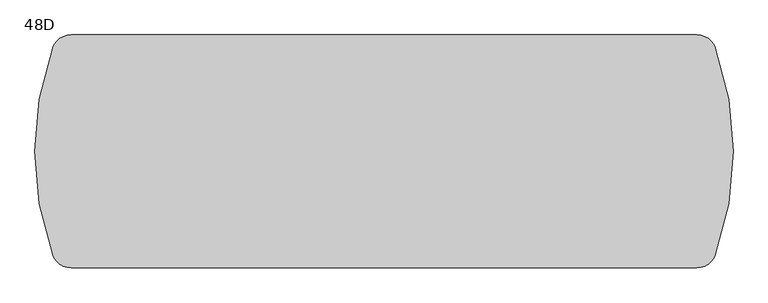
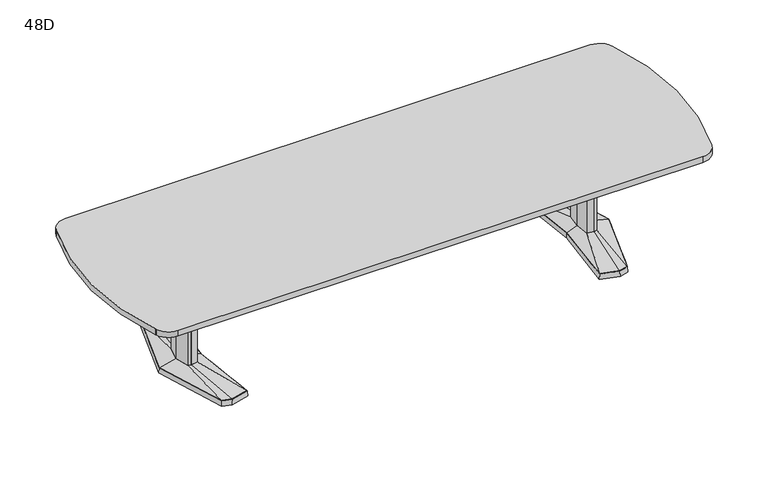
"""IFC4 building model written with IfcOpenShell, lengths in millimetres: furniture geometry, Coalesse_AM_Table_Conference_ETable2_SoftRadiused_12ft_AluminiumBase : 48D."""

from ifc_helpers import new_model, si_unit, point, frame, frame_2d, origin, place, context, project, spatial, polyline, circle_curve, trimmed, segment, composite_curve, outline, extrude, faceted_brep, source, transform, mapped, element, save
from ifc_brep_helpers import plane_surface, spline_surface, advanced_brep


def furniture_48d_4b3223de(model_context):
    return source(origin(), model_context, "Body", "SolidModel", [
        faceted_brep([(1210.6306835, 455.5848221, 38.1), (1101.0531277, 426.2263816, 38.1), (1142.2163717, 0.0, 38.1), (1101.0531277, -426.2263816, 38.1), (1210.6306835, -455.5848221, 38.1), (1266.7570396, -440.5478297, 38.1), (1404.0684269, 0.0, 38.1), (1266.7570396, 440.5478297, 38.1), (1210.6306754, 457.2283104, 3.175), (1268.0124472, 441.8549756, 3.175), (1405.73125, 0.0, 3.175), (1268.0124472, -441.8549756, 3.175), (1210.6306754, -457.2283104, 3.175), (1099.34375, -427.4118891, 3.175), (1140.6214856, 0.0, 3.175), (1099.34375, 427.4118891, 3.175), (1214.220115, 428.3273875, 3.175), (1109.1718228, 402.1057253, 3.175), (1117.290518, 377.985069, 3.175), (1217.8095466, 401.0699529, 3.175), (1268.3691725, 387.524361, 3.175), (1267.5631061, 414.0360954, 3.175), (1214.220115, -428.3273875, 3.175), (1267.5631061, -414.0360954, 3.175), (1268.3691725, -387.524361, 3.175), (1217.8095466, -401.0699529, 3.175), (1117.290518, -377.985069, 3.175), (1109.1718228, -402.1057253, 3.175), (1340.8153621, 0.0, 3.175), (1308.5459611, 120.4193755, 3.175), (1259.8987222, 133.471665, 3.175), (1180.0180526, 119.4176561, 3.175), (1168.8868466, 0.0, 3.175), (1180.0180526, -119.4176561, 3.175), (1259.8987222, -133.471665, 3.175), (1308.5459611, -120.4193755, 3.175), (1214.220115, 428.3273875, 0.0), (1267.5631061, 414.0360954, 0.0), (1268.3691725, 387.524361, 0.0), (1217.8095466, 401.0699529, 0.0), (1117.290518, 377.985069, 0.0), (1109.1718228, 402.1057253, 0.0), (1214.220115, -428.3273875, 0.0), (1109.1718228, -402.1057253, 0.0), (1117.290518, -377.985069, 0.0), (1217.8095466, -401.0699529, 0.0), (1268.3691725, -387.524361, 0.0), (1267.5631061, -414.0360954, 0.0), (1340.8153621, 0.0, 0.0), (1308.5459611, -120.4193755, 0.0), (1259.8987222, -133.471665, 0.0), (1180.0180526, -119.4176561, 0.0), (1168.8868466, 0.0, 0.0), (1180.0180526, 119.4176561, 0.0), (1259.8987222, 133.471665, 0.0), (1308.5459611, 120.4193755, 0.0)], [[[0, 1, 2, 3, 4, 5, 6, 7]], [[8, 9, 10, 11, 12, 13, 14, 15], [16, 17, 18, 19, 20, 21], [22, 23, 24, 25, 26, 27], [28, 29, 30, 31, 32, 33, 34, 35]], [[7, 9, 8, 0]], [[6, 10, 9, 7]], [[5, 11, 10, 6]], [[4, 12, 11, 5]], [[3, 13, 12, 4]], [[2, 14, 13, 3]], [[1, 15, 14, 2]], [[0, 8, 15, 1]], [[36, 37, 38, 39, 40, 41]], [[42, 43, 44, 45, 46, 47]], [[48, 49, 50, 51, 52, 53, 54, 55]], [[36, 16, 21, 37]], [[37, 21, 20, 38]], [[38, 20, 19, 39]], [[39, 19, 18, 40]], [[40, 18, 17, 41]], [[41, 17, 16, 36]], [[42, 22, 27, 43]], [[43, 27, 26, 44]], [[44, 26, 25, 45]], [[45, 25, 24, 46]], [[46, 24, 23, 47]], [[47, 23, 22, 42]], [[48, 28, 35, 49]], [[49, 35, 34, 50]], [[50, 34, 33, 51]], [[51, 33, 32, 52]], [[52, 32, 31, 53]], [[53, 31, 30, 54]], [[54, 30, 29, 55]], [[55, 29, 28, 48]]]),
        faceted_brep([(1301.3710836, 0.0, 698.5), (1277.4358546, 89.3188359, 698.5), (1260.5824984, 93.8406728, 698.5), (1258.1826511, 94.4845635, 698.5), (1215.255146, 86.9320037, 698.5), (1207.1520056, 0.0, 698.5), (1215.255146, -86.9320037, 698.5), (1258.1826511, -94.4845635, 698.5), (1260.5824984, -93.8406728, 698.5), (1277.4358546, -89.3188359, 698.5), (1301.3710836, 0.0, 63.5), (1277.4358546, -89.3188359, 63.5), (1260.5824984, -93.8406728, 63.5), (1258.1826511, -94.4845635, 63.5), (1215.255146, -86.9320037, 63.5), (1207.1520056, 0.0, 63.5), (1215.255146, 86.9320037, 63.5), (1258.1826511, 94.4845635, 63.5), (1260.5824984, 93.8406728, 63.5), (1277.4358546, 89.3188359, 63.5)], [[[0, 1, 2, 3, 4, 5, 6, 7, 8, 9]], [[10, 11, 12, 13, 14, 15, 16, 17, 18, 19]], [[9, 11, 10, 0]], [[8, 12, 11, 9]], [[7, 13, 12, 8]], [[6, 14, 13, 7]], [[5, 15, 14, 6]], [[4, 16, 15, 5]], [[3, 17, 16, 4]], [[2, 18, 17, 3]], [[1, 19, 18, 2]], [[0, 10, 19, 1]]]),
        advanced_brep(
        [(1258.1826511, 94.4845635, 63.5), (1215.255146, 86.9320037, 63.5), (1207.1520056, 0.0, 63.5), (1215.255146, -86.9320037, 63.5), (1258.1826511, -94.4845635, 63.5), (1277.4358546, -89.3188359, 63.5), (1301.3710836, 0.0, 63.5), (1277.4358546, 89.3188359, 63.5), (1210.6306835, 455.5848221, 38.1), (1266.7570396, 440.5478297, 38.1), (1404.0684269, 0.0, 38.1), (1266.7570396, -440.5478297, 38.1), (1210.6306835, -455.5848221, 38.1), (1101.0531277, -426.2263816, 38.1), (1142.2163717, 0.0, 38.1), (1101.0531277, 426.2263816, 38.1)],
        [
            (0, 1),
            (1, 2),
            (2, 3),
            (3, 4),
            (4, 5),
            (5, 6),
            (6, 7),
            (7, 0),
            (8, 9),
            (9, 10),
            (10, 11),
            (11, 12),
            (12, 13),
            (13, 14),
            (14, 15),
            (15, 8),
            (8, 0),
            (7, 9),
            (6, 10),
            (5, 11),
            (4, 12),
            (3, 13),
            (2, 14),
            (1, 15),
        ],
        [
            plane_surface(frame((1251.2837991, 0.0, 63.5), z_axis=(0.0, 0.0, 1.0), x_axis=(-0.25884244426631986, -0.9659195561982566, 0.0))),
            plane_surface(frame((1212.8958125, 0.0, 38.1), z_axis=(0.0, 0.0, -1.0), x_axis=(-0.25884244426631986, -0.9659195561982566, 0.0))),
            spline_surface(1, 1, [[(1210.6306835, 455.5848221, 38.1), (1266.7570396, 440.5478297, 38.1)], [(1258.1826511, 94.4845635, 63.5), (1277.4358546, 89.3188359, 63.5)]], [2, 2], [2, 2], [0.0, 1.0], [0.0, 1.0]),
            spline_surface(1, 1, [[(1266.7570396, 440.5478297, 38.1), (1404.0684269, 0.0, 38.1)], [(1277.4358546, 89.3188359, 63.5), (1301.3710836, 0.0, 63.5)]], [2, 2], [2, 2], [0.0, 1.0], [0.0, 1.0]),
            spline_surface(1, 1, [[(1404.0684269, 0.0, 38.1), (1266.7570396, -440.5478297, 38.1)], [(1301.3710836, 0.0, 63.5), (1277.4358546, -89.3188359, 63.5)]], [2, 2], [2, 2], [0.0, 1.0], [0.0, 1.0]),
            spline_surface(1, 1, [[(1266.7570396, -440.5478297, 38.1), (1210.6306835, -455.5848221, 38.1)], [(1277.4358546, -89.3188359, 63.5), (1258.1826511, -94.4845635, 63.5)]], [2, 2], [2, 2], [0.0, 1.0], [0.0, 1.0]),
            spline_surface(1, 1, [[(1210.6306835, -455.5848221, 38.1), (1101.0531277, -426.2263816, 38.1)], [(1258.1826511, -94.4845635, 63.5), (1215.255146, -86.9320037, 63.5)]], [2, 2], [2, 2], [0.0, 1.0], [0.0, 1.0]),
            spline_surface(1, 1, [[(1101.0531277, -426.2263816, 38.1), (1142.2163717, 0.0, 38.1)], [(1215.255146, -86.9320037, 63.5), (1207.1520056, 0.0, 63.5)]], [2, 2], [2, 2], [0.0, 1.0], [0.0, 1.0]),
            spline_surface(1, 1, [[(1142.2163717, 0.0, 38.1), (1101.0531277, 426.2263816, 38.1)], [(1207.1520056, 0.0, 63.5), (1215.255146, 86.9320037, 63.5)]], [2, 2], [2, 2], [0.0, 1.0], [0.0, 1.0]),
            spline_surface(1, 1, [[(1101.0531277, 426.2263816, 38.1), (1210.6306835, 455.5848221, 38.1)], [(1215.255146, 86.9320037, 63.5), (1258.1826511, 94.4845635, 63.5)]], [2, 2], [2, 2], [0.0, 1.0], [0.0, 1.0]),
        ],
        [
            (0, [[1, 2, 3, 4, 5, 6, 7, 8]]),
            (1, [[9, 10, 11, 12, 13, 14, 15, 16]]),
            (2, [[17, -8, 18, -9]]),
            (3, [[-18, -7, 19, -10]]),
            (4, [[-19, -6, 20, -11]]),
            (5, [[-20, -5, 21, -12]]),
            (6, [[-21, -4, 22, -13]]),
            (7, [[-22, -3, 23, -14]]),
            (8, [[-23, -2, 24, -15]]),
            (9, [[-24, -1, -17, -16]]),
        ],
    ),
        faceted_brep([(-1210.6306835, 455.5848221, 38.1), (-1266.7570396, 440.5478297, 38.1), (-1404.0684269, 0.0, 38.1), (-1266.7570396, -440.5478297, 38.1), (-1210.6306835, -455.5848221, 38.1), (-1101.0531277, -426.2263816, 38.1), (-1142.2163717, 0.0, 38.1), (-1101.0531277, 426.2263816, 38.1), (-1210.6306754, 457.2283104, 3.175), (-1099.34375, 427.4118891, 3.175), (-1140.6214856, 0.0, 3.175), (-1099.34375, -427.4118891, 3.175), (-1210.6306754, -457.2283104, 3.175), (-1268.0124472, -441.8549756, 3.175), (-1405.73125, 0.0, 3.175), (-1268.0124472, 441.8549756, 3.175), (-1214.220115, 428.3273875, 3.175), (-1267.5631061, 414.0360954, 3.175), (-1268.3691725, 387.524361, 3.175), (-1217.8095466, 401.0699529, 3.175), (-1117.290518, 377.985069, 3.175), (-1109.1718228, 402.1057253, 3.175), (-1214.220115, -428.3273875, 3.175), (-1109.1718228, -402.1057253, 3.175), (-1117.290518, -377.985069, 3.175), (-1217.8095466, -401.0699529, 3.175), (-1268.3691725, -387.524361, 3.175), (-1267.5631061, -414.0360954, 3.175), (-1340.8153621, 0.0, 3.175), (-1308.5459611, -120.4193755, 3.175), (-1259.8987222, -133.471665, 3.175), (-1180.0180526, -119.4176561, 3.175), (-1168.8868466, 0.0, 3.175), (-1180.0180526, 119.4176561, 3.175), (-1259.8987222, 133.471665, 3.175), (-1308.5459611, 120.4193755, 3.175), (-1214.220115, 428.3273875, 0.0), (-1109.1718228, 402.1057253, 0.0), (-1117.290518, 377.985069, 0.0), (-1217.8095466, 401.0699529, 0.0), (-1268.3691725, 387.524361, 0.0), (-1267.5631061, 414.0360954, 0.0), (-1214.220115, -428.3273875, 0.0), (-1267.5631061, -414.0360954, 0.0), (-1268.3691725, -387.524361, 0.0), (-1217.8095466, -401.0699529, 0.0), (-1117.290518, -377.985069, 0.0), (-1109.1718228, -402.1057253, 0.0), (-1340.8153621, 0.0, 0.0), (-1308.5459611, 120.4193755, 0.0), (-1259.8987222, 133.471665, 0.0), (-1180.0180526, 119.4176561, 0.0), (-1168.8868466, 0.0, 0.0), (-1180.0180526, -119.4176561, 0.0), (-1259.8987222, -133.471665, 0.0), (-1308.5459611, -120.4193755, 0.0)], [[[0, 1, 2, 3, 4, 5, 6, 7]], [[8, 9, 10, 11, 12, 13, 14, 15], [16, 17, 18, 19, 20, 21], [22, 23, 24, 25, 26, 27], [28, 29, 30, 31, 32, 33, 34, 35]], [[1, 0, 8, 15]], [[2, 1, 15, 14]], [[3, 2, 14, 13]], [[4, 3, 13, 12]], [[5, 4, 12, 11]], [[6, 5, 11, 10]], [[7, 6, 10, 9]], [[0, 7, 9, 8]], [[36, 37, 38, 39, 40, 41]], [[42, 43, 44, 45, 46, 47]], [[48, 49, 50, 51, 52, 53, 54, 55]], [[36, 41, 17, 16]], [[41, 40, 18, 17]], [[40, 39, 19, 18]], [[39, 38, 20, 19]], [[38, 37, 21, 20]], [[37, 36, 16, 21]], [[42, 47, 23, 22]], [[47, 46, 24, 23]], [[46, 45, 25, 24]], [[45, 44, 26, 25]], [[44, 43, 27, 26]], [[43, 42, 22, 27]], [[48, 55, 29, 28]], [[55, 54, 30, 29]], [[54, 53, 31, 30]], [[53, 52, 32, 31]], [[52, 51, 33, 32]], [[51, 50, 34, 33]], [[50, 49, 35, 34]], [[49, 48, 28, 35]]]),
        faceted_brep([(-1301.3710836, 0.0, 698.5), (-1277.4358546, -89.3188359, 698.5), (-1260.5824984, -93.8406728, 698.5), (-1258.1826511, -94.4845635, 698.5), (-1215.255146, -86.9320037, 698.5), (-1207.1520056, 0.0, 698.5), (-1215.255146, 86.9320037, 698.5), (-1258.1826511, 94.4845635, 698.5), (-1260.5824984, 93.8406728, 698.5), (-1277.4358546, 89.3188359, 698.5), (-1301.3710836, 0.0, 63.5), (-1277.4358546, 89.3188359, 63.5), (-1260.5824984, 93.8406728, 63.5), (-1258.1826511, 94.4845635, 63.5), (-1215.255146, 86.9320037, 63.5), (-1207.1520056, 0.0, 63.5), (-1215.255146, -86.9320037, 63.5), (-1258.1826511, -94.4845635, 63.5), (-1260.5824984, -93.8406728, 63.5), (-1277.4358546, -89.3188359, 63.5)], [[[0, 1, 2, 3, 4, 5, 6, 7, 8, 9]], [[10, 11, 12, 13, 14, 15, 16, 17, 18, 19]], [[1, 0, 10, 19]], [[2, 1, 19, 18]], [[3, 2, 18, 17]], [[4, 3, 17, 16]], [[5, 4, 16, 15]], [[6, 5, 15, 14]], [[7, 6, 14, 13]], [[8, 7, 13, 12]], [[9, 8, 12, 11]], [[0, 9, 11, 10]]]),
        advanced_brep(
        [(-1258.1826511, 94.4845635, 63.5), (-1277.4358546, 89.3188359, 63.5), (-1301.3710836, 0.0, 63.5), (-1277.4358546, -89.3188359, 63.5), (-1258.1826511, -94.4845635, 63.5), (-1215.255146, -86.9320037, 63.5), (-1207.1520056, 0.0, 63.5), (-1215.255146, 86.9320037, 63.5), (-1210.6306835, 455.5848221, 38.1), (-1101.0531277, 426.2263816, 38.1), (-1142.2163717, 0.0, 38.1), (-1101.0531277, -426.2263816, 38.1), (-1210.6306835, -455.5848221, 38.1), (-1266.7570396, -440.5478297, 38.1), (-1404.0684269, 0.0, 38.1), (-1266.7570396, 440.5478297, 38.1)],
        [
            (0, 1),
            (1, 2),
            (2, 3),
            (3, 4),
            (4, 5),
            (5, 6),
            (6, 7),
            (7, 0),
            (8, 9),
            (9, 10),
            (10, 11),
            (11, 12),
            (12, 13),
            (13, 14),
            (14, 15),
            (15, 8),
            (15, 1),
            (0, 8),
            (14, 2),
            (13, 3),
            (12, 4),
            (11, 5),
            (10, 6),
            (9, 7),
        ],
        [
            plane_surface(frame((-1251.2837991, 0.0, 63.5), z_axis=(0.0, 0.0, 1.0), x_axis=(0.25884244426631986, -0.9659195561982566, 0.0))),
            plane_surface(frame((-1212.8958125, 0.0, 38.1), z_axis=(0.0, 0.0, -1.0), x_axis=(0.25884244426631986, -0.9659195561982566, 0.0))),
            spline_surface(1, 1, [[(-1210.6306835, 455.5848221, 38.1), (-1258.1826511, 94.4845635, 63.5)], [(-1266.7570396, 440.5478297, 38.1), (-1277.4358546, 89.3188359, 63.5)]], [2, 2], [2, 2], [0.0, 1.0], [0.0, 1.0]),
            spline_surface(1, 1, [[(-1266.7570396, 440.5478297, 38.1), (-1277.4358546, 89.3188359, 63.5)], [(-1404.0684269, 0.0, 38.1), (-1301.3710836, 0.0, 63.5)]], [2, 2], [2, 2], [0.0, 1.0], [0.0, 1.0]),
            spline_surface(1, 1, [[(-1404.0684269, 0.0, 38.1), (-1301.3710836, 0.0, 63.5)], [(-1266.7570396, -440.5478297, 38.1), (-1277.4358546, -89.3188359, 63.5)]], [2, 2], [2, 2], [0.0, 1.0], [0.0, 1.0]),
            spline_surface(1, 1, [[(-1266.7570396, -440.5478297, 38.1), (-1277.4358546, -89.3188359, 63.5)], [(-1210.6306835, -455.5848221, 38.1), (-1258.1826511, -94.4845635, 63.5)]], [2, 2], [2, 2], [0.0, 1.0], [0.0, 1.0]),
            spline_surface(1, 1, [[(-1210.6306835, -455.5848221, 38.1), (-1258.1826511, -94.4845635, 63.5)], [(-1101.0531277, -426.2263816, 38.1), (-1215.255146, -86.9320037, 63.5)]], [2, 2], [2, 2], [0.0, 1.0], [0.0, 1.0]),
            spline_surface(1, 1, [[(-1101.0531277, -426.2263816, 38.1), (-1215.255146, -86.9320037, 63.5)], [(-1142.2163717, 0.0, 38.1), (-1207.1520056, 0.0, 63.5)]], [2, 2], [2, 2], [0.0, 1.0], [0.0, 1.0]),
            spline_surface(1, 1, [[(-1142.2163717, 0.0, 38.1), (-1207.1520056, 0.0, 63.5)], [(-1101.0531277, 426.2263816, 38.1), (-1215.255146, 86.9320037, 63.5)]], [2, 2], [2, 2], [0.0, 1.0], [0.0, 1.0]),
            spline_surface(1, 1, [[(-1101.0531277, 426.2263816, 38.1), (-1215.255146, 86.9320037, 63.5)], [(-1210.6306835, 455.5848221, 38.1), (-1258.1826511, 94.4845635, 63.5)]], [2, 2], [2, 2], [0.0, 1.0], [0.0, 1.0]),
        ],
        [
            (0, [[1, 2, 3, 4, 5, 6, 7, 8]]),
            (1, [[9, 10, 11, 12, 13, 14, 15, 16]]),
            (2, [[-16, 17, -1, 18]]),
            (3, [[-15, 19, -2, -17]]),
            (4, [[-14, 20, -3, -19]]),
            (5, [[-13, 21, -4, -20]]),
            (6, [[-12, 22, -5, -21]]),
            (7, [[-11, 23, -6, -22]]),
            (8, [[-10, 24, -7, -23]]),
            (9, [[-9, -18, -8, -24]]),
        ],
    ),
        extrude(outline(composite_curve([segment(trimmed(circle_curve(frame_2d((-209.6522907, -0.0175027)), 1619.1477093), [point((-1736.1539068, -539.8620365))], [point((-1736.1956256, 539.7090495))], False, "CARTESIAN"), True, "CONTINUOUS"), segment(polyline([(-1736.1956256, 539.7090495), (-1735.4453442, 541.8662966)]), True, "CONTINUOUS"), segment(trimmed(circle_curve(frame_2d((-1639.6558148, 508.0)), 101.6), [point((-1735.4453442, 541.8662966))], [point((-1639.6558148, 609.6))], False, "CARTESIAN"), True, "CONTINUOUS"), segment(polyline([(-1639.6558148, 609.6), (1639.6558148, 609.6)]), True, "CONTINUOUS"), segment(trimmed(circle_curve(frame_2d((1639.6558148, 508.0)), 101.6), [point((1639.6558148, 609.6))], [point((1735.4453442, 541.8662966))], False, "CARTESIAN"), True, "CONTINUOUS"), segment(polyline([(1735.4453442, 541.8662966), (1736.1956256, 539.7090495)]), True, "CONTINUOUS"), segment(trimmed(circle_curve(frame_2d((209.7546018, 5.18e-05)), 1619.0453982), [point((1736.1956256, 539.7090495))], [point((1736.1539068, -539.8269235))], False, "CARTESIAN"), True, "CONTINUOUS"), segment(polyline([(1736.1539068, -539.8269235), (1735.4425275, -541.873651)]), True, "CONTINUOUS"), segment(trimmed(circle_curve(frame_2d((1639.6555469, -507.999927)), 101.600073), [point((1735.4425275, -541.873651))], [point((1639.6555469, -609.6))], False, "CARTESIAN"), True, "CONTINUOUS"), segment(polyline([(1639.6555469, -609.6), (-1639.6555469, -609.6)]), True, "CONTINUOUS"), segment(trimmed(circle_curve(frame_2d((-1639.6555469, -507.999927)), 101.600073), [point((-1639.6555469, -609.6))], [point((-1735.4425275, -541.873651))], False, "CARTESIAN"), True, "CONTINUOUS"), segment(polyline([(-1735.4425275, -541.873651), (-1736.1539068, -539.8620365)]), True, "CONTINUOUS")], self_intersect=False)), frame((0.0, 0.0, 698.5), z_axis=(0.0, 0.0, 1.0), x_axis=(1.0, 0.0, 0.0)), (0.0, 0.0, 1.0), 38.1),
        extrude(outline(polyline([(96.8375, 698.5), (103.1875, 698.5), (103.1875, 476.25), (-103.1875, 476.25), (-103.1875, 698.5), (-96.8375, 698.5), (-96.8375, 482.6), (96.8375, 482.6), (96.8375, 698.5)])), frame((-1207.29375, 0.0, 0.0), z_axis=(1.0, 0.0, 0.0), x_axis=(0.0, 1.0, 0.0)), (0.0, 0.0, 1.0), 2414.5875),
    ])


if __name__ == "__main__":
    model = new_model("IFC4")
    model_context = context("Model", 3, world=origin())
    ifc_project = project(units=[si_unit("LENGTHUNIT", "METRE", prefix="MILLI")], contexts=[model_context])
    site = spatial("IfcSite", under=ifc_project)
    building = spatial("IfcBuilding", under=site)
    placement = place(None, origin())
    furniture_48d_shape = furniture_48d_4b3223de(model_context)
    element("IfcFurniture", 1, ObjectType="Coalesse_AM_Table_Conference_ETable2_SoftRadiused_12ft_AluminiumBase : 48D", at=placement, inside=building, context=model_context, shape_type="MappedRepresentation", body=[
        mapped(furniture_48d_shape, transform((0.0, 0.0, 0.0), x_axis=(1.0, 0.0, 0.0), y_axis=(0.0, 1.0, 0.0), z_axis=(0.0, 0.0, 1.0))),
    ])
    save(model, "model.ifc")
